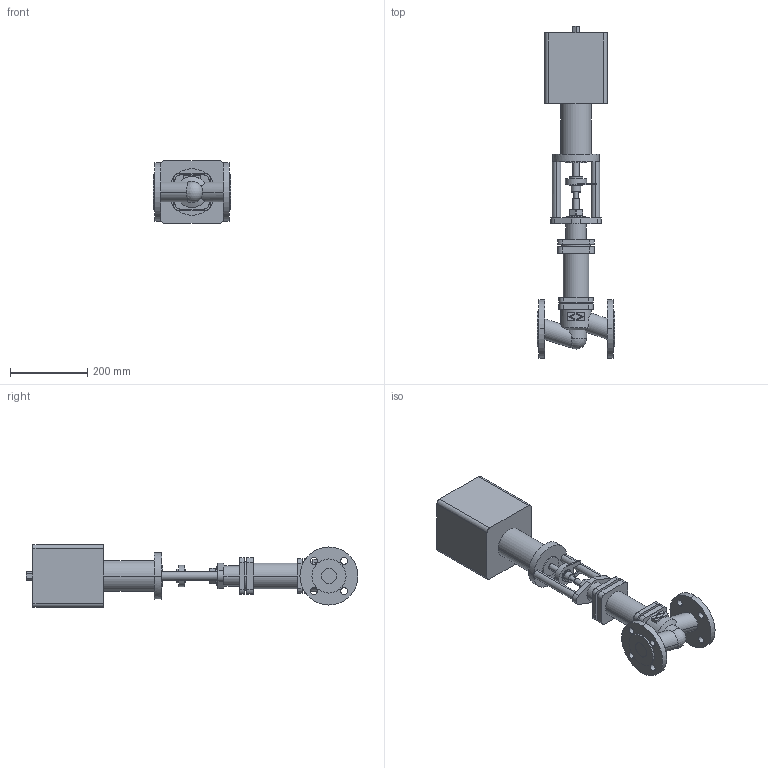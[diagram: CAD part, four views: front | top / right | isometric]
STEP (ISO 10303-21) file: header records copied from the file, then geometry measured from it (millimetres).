
FILE_DESCRIPTION( ( '' ), '1' );
FILE_NAME( 'F:/DE-SHS/TB/OR/04-Sonstiges/daten/files_3d/441-FR2.2/441-PN25-FR2_2/c000004558.stp', '2014-11-06T11:28:30', ( '' ), ( '' ), ' ', ' ', ' ' );
FILE_SCHEMA( ( 'CONFIG_CONTROL_DESIGN' ) );
Length unit declared in the file: millimetre
Products named in the file (2): 1; 2
Bounding box: 200 x 858 x 162 mm (x, y, z)
Volume: 8084249.5 mm3; surface area: 485819.5 mm2
Topology: 2 solids, 2 shells, 202 faces, 497 edges, 329 vertices
Faces by surface type: cylinder 102, plane 97, cone 2, sphere 1
Entity records: 6607 total; most frequent: CARTESIAN_POINT 1512, DIRECTION 1105, ORIENTED_EDGE 990, EDGE_CURVE 495, AXIS2_PLACEMENT_3D 420, VERTEX_POINT 329, LINE 265, VECTOR 265
